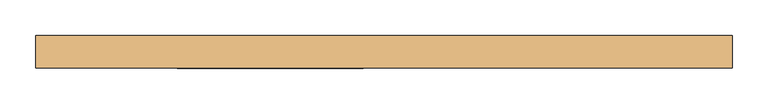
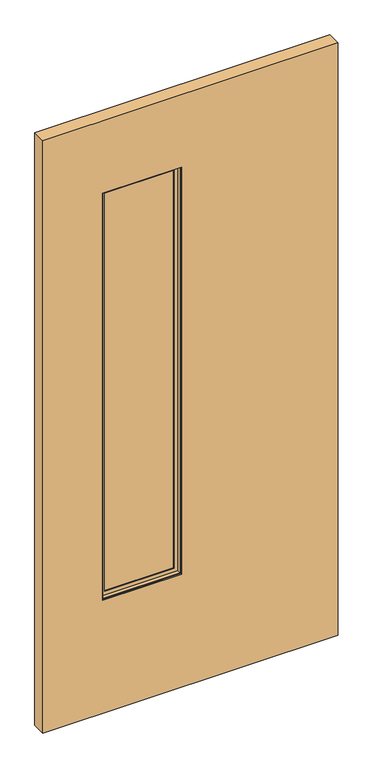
"""IFC4 building model written with IfcOpenShell, lengths in millimetres: door geometry, Solid_Hinged_Door_Glass_insert-AIH-Teknion-FHDB-Leaf_Single-R2022 : (A) Justified Half Glass insert."""

import ifcopenshell
import ifcopenshell.guid

model = None  # the IFC model being written
_history = None  # IfcOwnerHistory: only IFC2X3 demands one
_inside = {}  # id of a spatial element -> (the spatial element, [elements in it])
_under = {}  # id of a project, library or spatial element -> (it, [spatial elements below it])
_declared = {}  # id of a project -> (the project, [libraries it declares])
_typed = {}  # id of a type object -> (the type object, [elements of that type])
_made_of = {}  # id of a material, layer set ... -> (it, [elements and type objects made of it])


def new_model(schema):
    """Start an empty IFC model of exactly this schema.

    Asked for "IFC4X3", IfcOpenShell would pick the latest addendum, in which some entities
    have other attributes; the version numbers below select the first issue.
    IFC2X3 requires an IfcOwnerHistory on every rooted entity: one is made here for all.
    """
    global model, _history
    if schema == "IFC4X3":
        model = ifcopenshell.file(schema_version=(4, 3, 0, 0))
    else:
        model = ifcopenshell.file(schema=schema)
    _inside.clear()
    _under.clear()
    _declared.clear()
    _typed.clear()
    _made_of.clear()
    _history = None
    if model.schema == "IFC2X3":
        org = make("IfcOrganization", Name="unknown")
        user = make(
            "IfcPersonAndOrganization",
            ThePerson=make("IfcPerson", FamilyName="unknown"),
            TheOrganization=org,
        )
        app = make(
            "IfcApplication",
            ApplicationDeveloper=org,
            Version="unknown",
            ApplicationFullName="unknown",
            ApplicationIdentifier="unknown",
        )
        _history = make(
            "IfcOwnerHistory",
            OwningUser=user,
            OwningApplication=app,
            ChangeAction="ADDED",
            CreationDate=0,
        )
    return model


def make(cls, **values):
    """One entity of the class cls with the attributes given. An attribute that is None is left unset."""
    return model.create_entity(
        cls, **{name: value for name, value in values.items() if value is not None}
    )


def rooted(cls, **values):
    """An entity with a GlobalId (a new one), such as an element, a storey or a relation."""
    return make(cls, GlobalId=ifcopenshell.guid.new(), OwnerHistory=_history, **values)


def si_unit(unit_type, name, prefix=None):
    """IfcSIUnit, for example si_unit("LENGTHUNIT", "METRE", prefix="MILLI")."""
    return make("IfcSIUnit", UnitType=unit_type, Prefix=prefix, Name=name)


def assignment(units):
    """IfcUnitAssignment: the units of a project."""
    return None if units is None else make("IfcUnitAssignment", Units=units)


def point(xyz):
    """IfcCartesianPoint."""
    return None if xyz is None else make("IfcCartesianPoint", Coordinates=xyz)


def direction(xyz):
    """IfcDirection."""
    return None if xyz is None else make("IfcDirection", DirectionRatios=xyz)


def frame(location, z_axis=None, x_axis=None):
    """IfcAxis2Placement3D, a coordinate frame: its origin and axes. An axis left out is left unset."""
    return make(
        "IfcAxis2Placement3D",
        Location=point(location),
        Axis=direction(z_axis),
        RefDirection=direction(x_axis),
    )


def origin():
    """The frame at (0, 0, 0) with its axes left unset."""
    return frame((0.0, 0.0, 0.0))


def place(relative_to, where):
    """IfcLocalPlacement: puts the frame where relative to a parent placement (None: the world)."""
    return make(
        "IfcLocalPlacement", PlacementRelTo=relative_to, RelativePlacement=where
    )


def context(
    kind, dimensions, precision=None, world=None, true_north=None, identifier=None
):
    """IfcGeometricRepresentationContext, for example the 3D "Model" context."""
    return make(
        "IfcGeometricRepresentationContext",
        ContextIdentifier=identifier,
        ContextType=kind,
        CoordinateSpaceDimension=dimensions,
        Precision=precision,
        WorldCoordinateSystem=world,
        TrueNorth=true_north,
    )


def project(units=None, contexts=None):
    """IfcProject with its units and contexts."""
    return rooted(
        "IfcProject",
        Name="project",
        RepresentationContexts=contexts,
        UnitsInContext=assignment(units),
    )


def spatial(cls, under=None, at=None, **own):
    """A site, building, storey or space (cls), placed at a placement, below another one or the project."""
    s = rooted(cls, ObjectPlacement=at, **own)
    if under is not None:
        _under.setdefault(under.id(), (under, []))[1].append(s)
    return s


def polyline(points):
    """IfcPolyline through the points."""
    return make("IfcPolyline", Points=[point(p) for p in points])


def outline(outer, holes=None, kind="AREA"):
    """IfcArbitraryClosedProfileDef: a profile drawn as a closed curve; with holes, ...WithVoids."""
    if holes is None:
        return make("IfcArbitraryClosedProfileDef", ProfileType=kind, OuterCurve=outer)
    return make(
        "IfcArbitraryProfileDefWithVoids",
        ProfileType=kind,
        OuterCurve=outer,
        InnerCurves=holes,
    )


def extrude(swept, where, along, depth):
    """IfcExtrudedAreaSolid: the profile swept, set in the frame where, extruded along a direction by depth."""
    return make(
        "IfcExtrudedAreaSolid",
        SweptArea=swept,
        Position=where,
        ExtrudedDirection=direction(along),
        Depth=depth,
    )


def faces_of(points, faces, orient=None, outer=None):
    """IfcFace entities. A face is a list of loops; a loop is a list of indices into points, from 0.

    orient and outer hold one flag for each loop. By default every Orientation is true, the
    first loop of a face is its IfcFaceOuterBound and the others are IfcFaceBound.
    """
    made = []
    for i, loops in enumerate(faces):
        bounds = []
        for j, loop in enumerate(loops):
            is_outer = j == 0 if outer is None else outer[i][j]
            bounds.append(
                make(
                    "IfcFaceOuterBound" if is_outer else "IfcFaceBound",
                    Bound=make("IfcPolyLoop", Polygon=[points[k] for k in loop]),
                    Orientation=True if orient is None else orient[i][j],
                )
            )
        made.append(make("IfcFace", Bounds=bounds))
    return made


def faceted_brep(points, faces, orient=None, outer=None, voids=None):
    """IfcFacetedBrep: a solid bounded by flat faces; with voids (closed shells), ...WithVoids."""
    shared = [point(p) for p in points]
    hull = make("IfcClosedShell", CfsFaces=faces_of(shared, faces, orient, outer))
    if voids is None:
        return make("IfcFacetedBrep", Outer=hull)
    return make(
        "IfcFacetedBrepWithVoids",
        Outer=hull,
        Voids=[
            make(cls, CfsFaces=faces_of(shared, fs, o, b)) for cls, fs, o, b in voids
        ],
    )


def shape(context_of_items, identifier, shape_type, items):
    """IfcShapeRepresentation: the items that make up one representation, for example the "Body"."""
    return make(
        "IfcShapeRepresentation",
        ContextOfItems=context_of_items,
        RepresentationIdentifier=identifier,
        RepresentationType=shape_type,
        Items=items,
    )


def source(mapping_origin, context_of_items, identifier, shape_type, items):
    """IfcRepresentationMap: a shape defined once, which mapped items show again and again."""
    return make(
        "IfcRepresentationMap",
        MappingOrigin=mapping_origin,
        MappedRepresentation=shape(context_of_items, identifier, shape_type, items),
    )


def transform(
    local_origin,
    x_axis=None,
    y_axis=None,
    z_axis=None,
    scale=None,
    scale2=None,
    scale3=None,
    uniform=True,
):
    """IfcCartesianTransformationOperator3D, or its non-uniform kind. x_axis, y_axis, z_axis: its Axis1, 2, 3."""
    if uniform:
        return make(
            "IfcCartesianTransformationOperator3D",
            Axis1=direction(x_axis),
            Axis2=direction(y_axis),
            LocalOrigin=point(local_origin),
            Scale=scale,
            Axis3=direction(z_axis),
        )
    return make(
        "IfcCartesianTransformationOperator3DnonUniform",
        Axis1=direction(x_axis),
        Axis2=direction(y_axis),
        LocalOrigin=point(local_origin),
        Scale=scale,
        Axis3=direction(z_axis),
        Scale2=scale2,
        Scale3=scale3,
    )


def mapped(mapping_source, mapping_target):
    """IfcMappedItem: shows the shape of a source again, moved by a transform."""
    return make(
        "IfcMappedItem", MappingSource=mapping_source, MappingTarget=mapping_target
    )


def made_of(thing, what):
    """Note that an element or type object is made of a material, layer set ...; save() writes the relation."""
    if what is not None:
        _made_of.setdefault(what.id(), (what, []))[1].append(thing)
    return thing


def element(
    cls,
    number,
    at=None,
    inside=None,
    cuts=None,
    type_object=None,
    material=None,
    context=None,
    identifier="Body",
    shape_type=None,
    held_by="IfcProductDefinitionShape",
    body=None,
    shapes=None,
    **own,
):
    """One element of the class cls, such as IfcWall. Its Tag is "e" and its number.

    at: its placement. inside: the storey or other place that contains it. cuts: it is an
    opening in that element (IfcRelVoidsElement). A single representation is given by context,
    identifier, shape_type and body (its items); several are given by shapes. held_by: the class
    of the entity that holds the representations. save() writes the other relations.
    """
    e = rooted(cls, Tag="e%d" % number, ObjectPlacement=at, **own)
    if body is not None:
        shapes = [shape(context, identifier, shape_type, body)]
    if shapes is not None:
        e.Representation = make(held_by, Representations=shapes)
    if inside is not None:
        _inside.setdefault(inside.id(), (inside, []))[1].append(e)
    if cuts is not None:
        rooted(
            "IfcRelVoidsElement", RelatingBuildingElement=cuts, RelatedOpeningElement=e
        )
    if type_object is not None:
        _typed.setdefault(type_object.id(), (type_object, []))[1].append(e)
    return made_of(e, material)


def aggregate(whole, parts):
    """IfcRelAggregates: a whole, such as a stair, and the parts it consists of."""
    return rooted("IfcRelAggregates", RelatingObject=whole, RelatedObjects=parts)


def save(model, path):
    """Write the relations noted so far, then the file.

    IfcRelAggregates (storeys below a building ...), IfcRelContainedInSpatialStructure (elements
    in a storey), IfcRelDefinesByType, IfcRelAssociatesMaterial and IfcRelDeclares: one each for
    every whole, place, type object, material and project.
    """
    for whole, parts in _under.values():
        aggregate(whole, parts)
    for where, things in _inside.values():
        rooted(
            "IfcRelContainedInSpatialStructure",
            RelatedElements=things,
            RelatingStructure=where,
        )
    for kind, things in _typed.values():
        rooted("IfcRelDefinesByType", RelatedObjects=things, RelatingType=kind)
    for what, things in _made_of.values():
        rooted("IfcRelAssociatesMaterial", RelatedObjects=things, RelatingMaterial=what)
    for by, libraries in _declared.values():
        rooted("IfcRelDeclares", RelatingContext=by, RelatedDefinitions=libraries)
    model.write(path)


def door_55623d40(model_context):
    return source(origin(), model_context, "Body", "SolidModel", [
        extrude(outline(polyline([(-29.4464326, -3.175), (-291.0664326, -3.175), (-291.0664326, 3.175), (-29.4464326, 3.175), (-29.4464326, -3.175)])), frame((0.0, 0.0, 409.9435027), z_axis=(0.0, 0.0, 1.0), x_axis=(1.0, 0.0, 0.0)), (0.0, 0.0, 1.0), 1430.02),
        faceted_brep([(-275.1758536, 3.797467, 1824.0729238), (-275.1758536, 3.797467, 425.8340817), (-275.1758536, 6.9755828, 425.8340817), (-275.1758536, 6.9755828, 1824.0729238), (-45.3370115, 3.797467, 425.8340817), (-45.3370115, 6.9755828, 425.8340817), (-32.6245484, 6.9755828, 413.1216185), (-287.8883168, 6.9755828, 413.1216185), (-287.8883168, 6.9755828, 1836.7853869), (-32.6245484, 6.9755828, 1836.7853869), (-45.3370115, 6.9755828, 1824.0729238), (-45.3370115, 3.797467, 1824.0729238), (-291.0664326, 3.797467, 409.9435027), (-29.4464326, 3.797467, 409.9435027), (-29.4464326, 3.797467, 1839.9635027), (-291.0664326, 3.797467, 1839.9635027), (-291.0664326, 19.688046, 1839.9635027), (-291.0664326, 19.688046, 409.9435027), (-29.4464326, 19.688046, 409.9435027), (-29.4464326, 19.688046, 1839.9635027), (-287.8883168, 19.688046, 413.1216185), (-32.6245484, 19.688046, 413.1216185), (-32.6245484, 19.688046, 1836.7853869), (-287.8883168, 19.688046, 1836.7853869)], [[[0, 1, 2, 3]], [[1, 4, 5, 2]], [[6, 7, 8, 9], [2, 5, 10, 3]], [[4, 11, 10, 5]], [[12, 13, 14, 15], [4, 1, 0, 11]], [[16, 17, 12, 15]], [[17, 18, 13, 12]], [[18, 19, 14, 13]], [[18, 17, 16, 19], [20, 21, 22, 23]], [[8, 7, 20, 23]], [[7, 6, 21, 20]], [[6, 9, 22, 21]], [[11, 0, 3, 10]], [[19, 16, 15, 14]], [[9, 8, 23, 22]]]),
        faceted_brep([(-287.8883168, -19.688046, 1836.7853869), (-287.8883168, -19.688046, 413.1216185), (-287.8883168, -6.9755828, 413.1216185), (-287.8883168, -6.9755828, 1836.7853869), (-32.6245484, -19.688046, 413.1216185), (-32.6245484, -6.9755828, 413.1216185), (-32.6245484, -6.9755828, 1836.7853869), (-45.3370115, -6.9755828, 425.8340817), (-275.1758536, -6.9755828, 425.8340817), (-275.1758536, -6.9755828, 1824.0729238), (-45.3370115, -6.9755828, 1824.0729238), (-32.6245484, -19.688046, 1836.7853869), (-291.0664326, -19.688046, 409.9435027), (-29.4464326, -19.688046, 409.9435027), (-29.4464326, -19.688046, 1839.9635027), (-291.0664326, -19.688046, 1839.9635027), (-291.0664326, -3.797467, 1839.9635027), (-291.0664326, -3.797467, 409.9435027), (-29.4464326, -3.797467, 409.9435027), (-29.4464326, -3.797467, 1839.9635027), (-275.1758536, -3.797467, 425.8340817), (-45.3370115, -3.797467, 425.8340817), (-45.3370115, -3.797467, 1824.0729238), (-275.1758536, -3.797467, 1824.0729238)], [[[0, 1, 2, 3]], [[1, 4, 5, 2]], [[2, 5, 6, 3], [7, 8, 9, 10]], [[4, 11, 6, 5]], [[12, 13, 14, 15], [4, 1, 0, 11]], [[16, 17, 12, 15]], [[17, 18, 13, 12]], [[18, 19, 14, 13]], [[18, 17, 16, 19], [20, 21, 22, 23]], [[9, 8, 20, 23]], [[8, 7, 21, 20]], [[7, 10, 22, 21]], [[11, 0, 3, 6]], [[19, 16, 15, 14]], [[10, 9, 23, 22]]]),
        extrude(outline(polyline([(2093.9635027, -490.4564326), (12.7, -490.4564326), (12.7, 490.4564326), (2093.9635027, 490.4564326), (2093.9635027, -490.4564326)]), holes=[polyline([(1839.9635027, -29.4464326), (409.9435027, -29.4464326), (409.9435027, -291.0664326), (1839.9635027, -291.0664326), (1839.9635027, -29.4464326)])]), frame((0.0, -23.114, 0.0), z_axis=(0.0, 1.0, 0.0), x_axis=(0.0, 0.0, 1.0)), (0.0, 0.0, 1.0), 46.228),
        extrude(outline(polyline([(465.0564326, 9.8925062), (-465.0564326, 9.8925062), (-465.0564326, 11.4927062), (465.0564326, 11.4927062), (465.0564326, 9.8925062)])), frame((0.0, 0.0, 12.7), z_axis=(0.0, 0.0, 1.0), x_axis=(1.0, 0.0, 0.0)), (0.0, 0.0, 1.0), 254.0),
        extrude(outline(polyline([(465.0564326, 21.5634094), (-465.0564326, 21.5634094), (-465.0564326, 23.114), (465.0564326, 23.114), (465.0564326, 21.5634094)])), frame((0.0, 0.0, 12.7), z_axis=(0.0, 0.0, 1.0), x_axis=(1.0, 0.0, 0.0)), (0.0, 0.0, 1.0), 254.0),
    ])


if __name__ == "__main__":
    model = new_model("IFC4")
    model_context = context("Model", 3, world=origin())
    ifc_project = project(units=[si_unit("LENGTHUNIT", "METRE", prefix="MILLI")], contexts=[model_context])
    site = spatial("IfcSite", under=ifc_project)
    building = spatial("IfcBuilding", under=site)
    placement = place(None, origin())
    door_shape = door_55623d40(model_context)
    element("IfcDoor", 1, ObjectType="Solid_Hinged_Door_Glass_insert-AIH-Teknion-FHDB-Leaf_Single-R2022 : (A) Justified Half Glass insert", at=placement, inside=building, context=model_context, shape_type="MappedRepresentation", body=[
        mapped(door_shape, transform((0.0, 0.0, 0.0), x_axis=(1.0, 0.0, 0.0), y_axis=(0.0, 1.0, 0.0), z_axis=(0.0, 0.0, 1.0))),
    ])
    save(model, "model.ifc")
